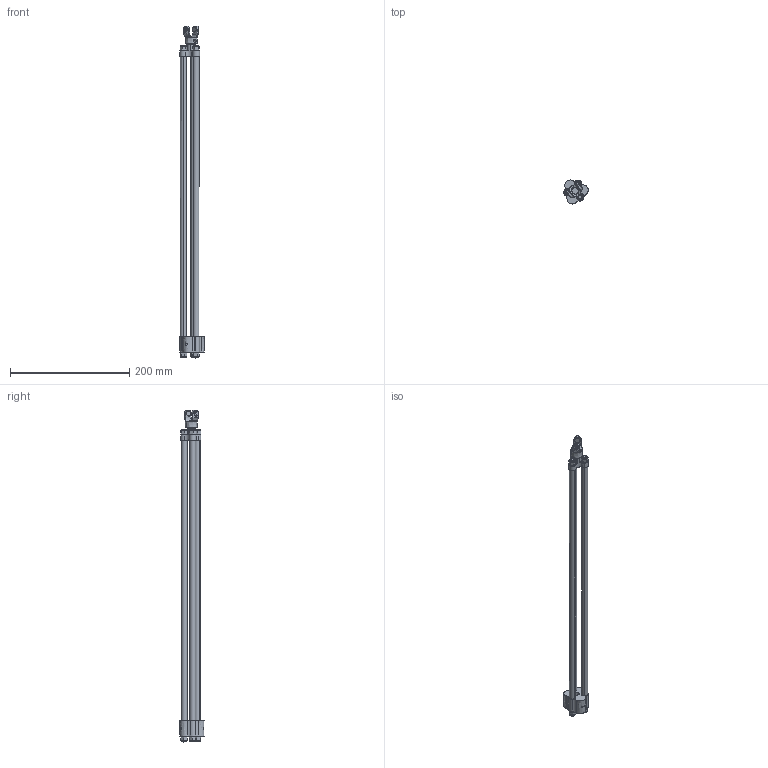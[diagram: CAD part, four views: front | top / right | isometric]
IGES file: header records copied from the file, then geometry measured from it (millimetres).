
Start section: SolidWorks IGES file using analytic representation for surfaces
Global section: file name: C:\Users\SELUHAA\Desktop\Work items\545792\IGES\IRB360_X-800-WD-4D_rev03_IGES_J\IRB360_X-800-WD-4D_rev03_MU_CAD.IGS; native system: SolidWorks 2022; preprocessor: SolidWorks 2022; author: SELUHAA; date: 231128.144927; units: millimetre
Bounding box: 40.68 x 40.23 x 555.8 mm (x, y, z)
Surface area: 65936.7 mm2 (no closed solid volume)
Topology: 0 solids, 0 shells, 305 faces, 5584 edges, 5582 vertices
Faces by surface type: revolution 185, bspline 120
